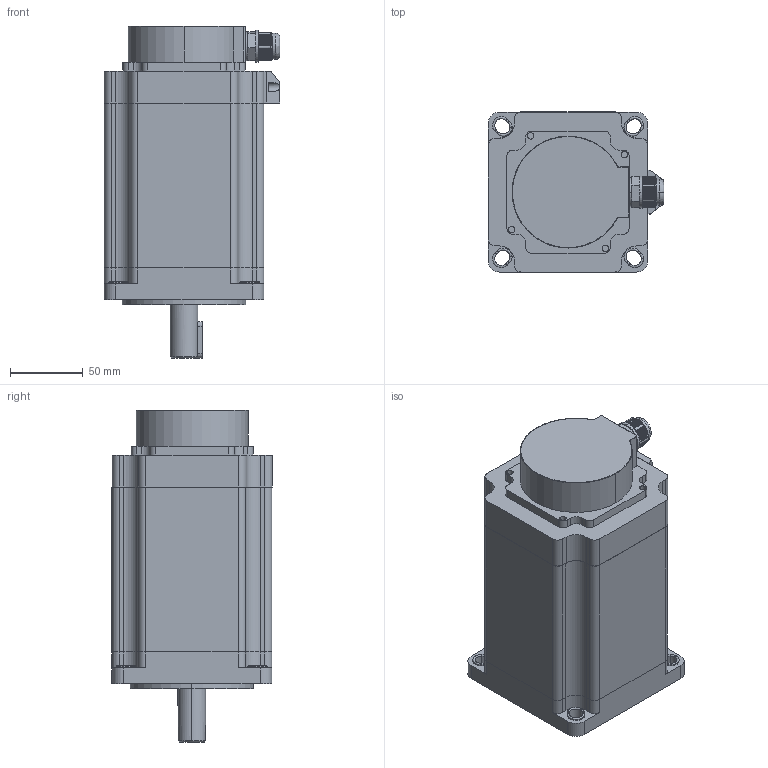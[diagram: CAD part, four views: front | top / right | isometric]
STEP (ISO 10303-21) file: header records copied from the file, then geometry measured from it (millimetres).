
FILE_DESCRIPTION (( 'STEP AP203' ), '1' );
FILE_NAME ('110J12160EC-1000-YH.STEP', '2018-09-20T01:56:39', ( 'USER-' ), ( 'MS' ), 'SwSTEP 2.0', 'SolidWorks 2015', '' );
FILE_SCHEMA (( 'CONFIG_CONTROL_DESIGN' ));
Length unit declared in the file: millimetre
Products named in the file (8): 錨璃6_1; 瑩; 110J12160EC-1000-YH; 110綴裔; 110儂旯; 110奻裔1; 錨璃3_1; 晤鎢ん裔
Assembly tree (7 placements, depth 2):
  110J12160EC-1000-YH
    110綴裔
    110儂旯
    110奻裔1
    錨璃3_1
    晤鎢ん裔
    錨璃6_1
    瑩
Bounding box: 121 x 110.29 x 228.5 mm (x, y, z)
Volume: 1749421.4 mm3; surface area: 183779.7 mm2
Topology: 8 solids, 8 shells, 713 faces, 1908 edges, 1239 vertices
Faces by surface type: plane 443, cylinder 216, bspline 33, cone 21
Entity records: 24179 total; most frequent: CARTESIAN_POINT 5706, ORIENTED_EDGE 3810, DIRECTION 3526, EDGE_CURVE 1905, VERTEX_POINT 1238, AXIS2_PLACEMENT_3D 1186, LINE 1154, VECTOR 1154
